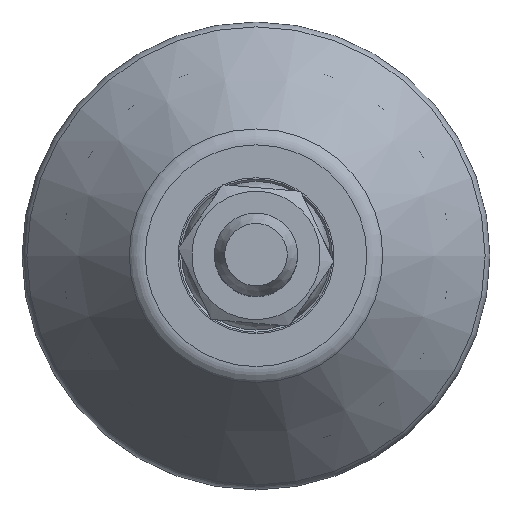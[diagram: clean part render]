
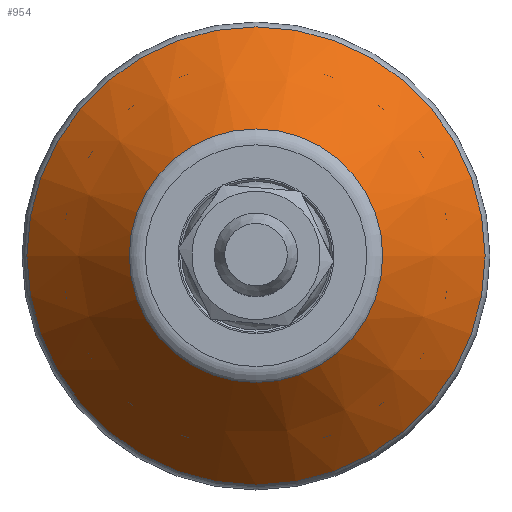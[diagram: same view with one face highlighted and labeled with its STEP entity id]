
A CAD part, top view. The second image highlights one B-rep face of the part: STEP entity #954.
In plain terms, the highlighted conical face has half-angle 40 degrees and reference radius 17.112 mm.
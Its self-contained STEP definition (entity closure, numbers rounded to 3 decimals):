
#954=ADVANCED_FACE('',(#2016,#2018),#2020,.T.);
#2016=FACE_BOUND('',#2017,.T.);
#2017=EDGE_LOOP('',(#2903,#2904));
#2018=FACE_BOUND('',#2019,.T.);
#2019=EDGE_LOOP('',(#2905,#2906));
#2020=CONICAL_SURFACE('',#2021,17.112,0.698);
#2021=AXIS2_PLACEMENT_3D('',#2022,#2023,#2024);
#2022=CARTESIAN_POINT('',(0.,0.,11.422));
#2023=DIRECTION('',(0.,0.,-1.));
#2024=DIRECTION('',(1.,0.,0.));
#2903=ORIENTED_EDGE('',*,*,#3389,.T.);
#2904=ORIENTED_EDGE('',*,*,#3388,.T.);
#2905=ORIENTED_EDGE('',*,*,#3392,.F.);
#2906=ORIENTED_EDGE('',*,*,#3393,.F.);
#3388=EDGE_CURVE('',#3914,#3915,#3916,.T.);
#3389=EDGE_CURVE('',#3915,#3914,#3917,.T.);
#3392=EDGE_CURVE('',#3922,#3923,#3924,.T.);
#3393=EDGE_CURVE('',#3923,#3922,#3925,.T.);
#3914=VERTEX_POINT('',#6341);
#3915=VERTEX_POINT('',#6342);
#3916=CIRCLE('',#6343,22.032);
#3917=CIRCLE('',#6347,22.032);
#3922=VERTEX_POINT('',#6361);
#3923=VERTEX_POINT('',#6362);
#3924=CIRCLE('',#6363,12.191);
#3925=CIRCLE('',#6367,12.191);
#6341=CARTESIAN_POINT('',(-22.032,0.,5.558));
#6342=CARTESIAN_POINT('',(22.032,0.,5.558));
#6343=AXIS2_PLACEMENT_3D('',#6344,#6345,#6346);
#6344=CARTESIAN_POINT('',(0.,0.,5.558));
#6345=DIRECTION('',(0.,0.,1.));
#6346=DIRECTION('',(-1.,0.,0.));
#6347=AXIS2_PLACEMENT_3D('',#6348,#6349,#6350);
#6348=CARTESIAN_POINT('',(0.,0.,5.558));
#6349=DIRECTION('',(0.,0.,1.));
#6350=DIRECTION('',(1.,0.,0.));
#6361=CARTESIAN_POINT('',(-12.191,0.,17.286));
#6362=CARTESIAN_POINT('',(12.191,0.,17.286));
#6363=AXIS2_PLACEMENT_3D('',#6364,#6365,#6366);
#6364=CARTESIAN_POINT('',(0.,0.,17.286));
#6365=DIRECTION('',(0.,0.,1.));
#6366=DIRECTION('',(-1.,0.,0.));
#6367=AXIS2_PLACEMENT_3D('',#6368,#6369,#6370);
#6368=CARTESIAN_POINT('',(0.,0.,17.286));
#6369=DIRECTION('',(0.,0.,1.));
#6370=DIRECTION('',(1.,0.,0.));
